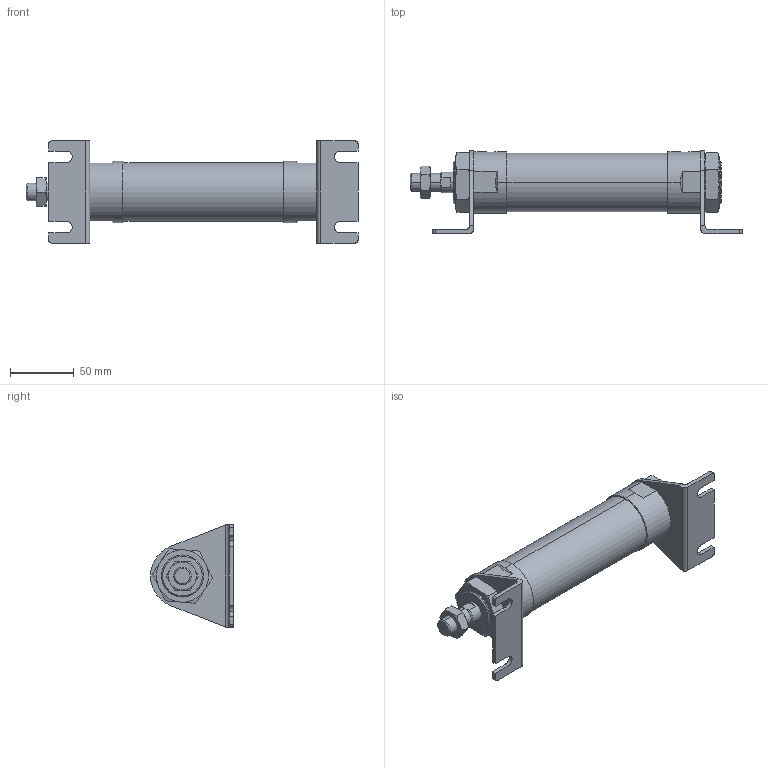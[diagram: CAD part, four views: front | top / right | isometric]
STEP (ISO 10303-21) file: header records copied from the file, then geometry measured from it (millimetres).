
FILE_DESCRIPTION (( 'STEP AP203' ), '1' );
FILE_NAME ('J#2-40-75-L.STEP', '2016-03-10T01:05:22', ( '' ), ( '' ), 'SwSTEP 2.0', 'SolidWorks 2014', '' );
FILE_SCHEMA (( 'CONFIG_CONTROL_DESIGN' ));
Length unit declared in the file: millimetre
Products named in the file (5): J#2-40-75-L; J#2-40-L; J#2-40-75
Assembly tree (6 placements, depth 2):
  J#2-40-75-L
    J#2-40-75
    (unnamed)
    (unnamed)  x2
    J#2-40-L  x2
Bounding box: 260.2 x 65 x 80 mm (x, y, z)
Volume: 381446 mm3; surface area: 67425 mm2
Topology: 6 solids, 6 shells, 170 faces, 404 edges, 249 vertices
Faces by surface type: plane 71, cylinder 48, torus 36, cone 15
Entity records: 4463 total; most frequent: CARTESIAN_POINT 1173, DIRECTION 578, ORIENTED_EDGE 558, EDGE_CURVE 279, AXIS2_PLACEMENT_3D 232, VERTEX_POINT 173, EDGE_LOOP 134, ADVANCED_FACE 121
